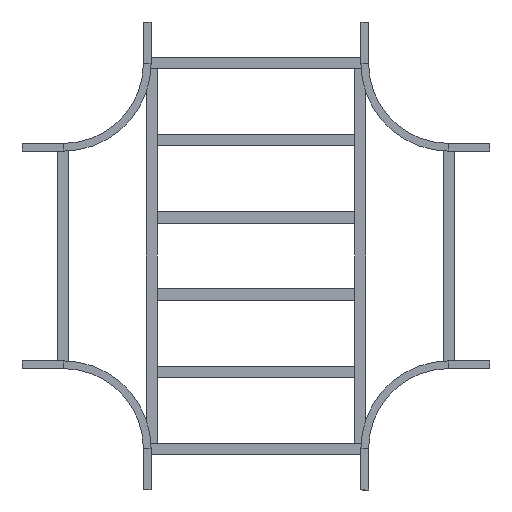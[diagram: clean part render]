
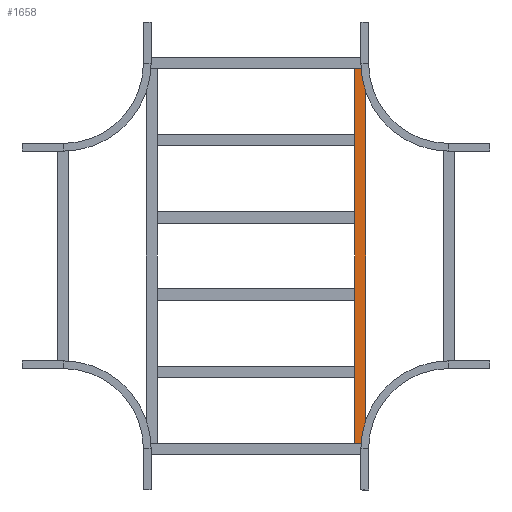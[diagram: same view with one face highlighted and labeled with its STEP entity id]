
A CAD part, front view. The second image highlights one B-rep face of the part: STEP entity #1658.
In plain terms, the highlighted planar face has unit normal (0, -1, 0).
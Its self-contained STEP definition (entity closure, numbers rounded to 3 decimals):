
#43 = CARTESIAN_POINT ( 'NONE',  ( 679.75, 0., 20.25 ) ) ;
#59 = CARTESIAN_POINT ( 'NONE',  ( 679.75, 0., 20.25 ) ) ;
#257 = EDGE_CURVE ( 'NONE', #1794, #2661, #788, .T. ) ;
#326 = FACE_OUTER_BOUND ( 'NONE', #582, .T. ) ;
#425 = CARTESIAN_POINT ( 'NONE',  ( 679.75, 0., -20.25 ) ) ;
#459 = LINE ( 'NONE', #1505, #1971 ) ;
#477 = EDGE_CURVE ( 'NONE', #1794, #1764, #2387, .T. ) ;
#511 = AXIS2_PLACEMENT_3D ( 'NONE', #43, #693, #1509 ) ;
#516 = ORIENTED_EDGE ( 'NONE', *, *, #1326, .F. ) ;
#582 = EDGE_LOOP ( 'NONE', ( #2548, #516, #769, #2320 ) ) ;
#673 = LINE ( 'NONE', #425, #1915 ) ;
#693 = DIRECTION ( 'NONE',  ( 0., 1., 0. ) ) ;
#706 = CARTESIAN_POINT ( 'NONE',  ( -679.75, 0., -20.25 ) ) ;
#709 = DIRECTION ( 'NONE',  ( -1., 0., 0. ) ) ;
#769 = ORIENTED_EDGE ( 'NONE', *, *, #257, .F. ) ;
#788 = LINE ( 'NONE', #1899, #1952 ) ;
#1053 = CARTESIAN_POINT ( 'NONE',  ( -679.75, 0., 20.25 ) ) ;
#1189 = PLANE ( 'NONE',  #511 ) ;
#1221 = VECTOR ( 'NONE', #709, 1000. ) ;
#1326 = EDGE_CURVE ( 'NONE', #2661, #2098, #673, .T. ) ;
#1333 = CARTESIAN_POINT ( 'NONE',  ( 679.75, 0., 20.25 ) ) ;
#1348 = DIRECTION ( 'NONE',  ( -1., 0., 0. ) ) ;
#1505 = CARTESIAN_POINT ( 'NONE',  ( -679.75, 0., 20.25 ) ) ;
#1509 = DIRECTION ( 'NONE',  ( 0., 0., 1. ) ) ;
#1658 = ADVANCED_FACE ( 'NONE', ( #326 ), #1189, .F. ) ;
#1662 = CARTESIAN_POINT ( 'NONE',  ( 679.75, 0., -20.25 ) ) ;
#1764 = VERTEX_POINT ( 'NONE', #1053 ) ;
#1794 = VERTEX_POINT ( 'NONE', #1333 ) ;
#1798 = EDGE_CURVE ( 'NONE', #1764, #2098, #459, .T. ) ;
#1899 = CARTESIAN_POINT ( 'NONE',  ( 679.75, 0., 20.25 ) ) ;
#1915 = VECTOR ( 'NONE', #1348, 1000. ) ;
#1952 = VECTOR ( 'NONE', #2557, 1000. ) ;
#1971 = VECTOR ( 'NONE', #1987, 1000. ) ;
#1987 = DIRECTION ( 'NONE',  ( 0., 0., -1. ) ) ;
#2098 = VERTEX_POINT ( 'NONE', #706 ) ;
#2320 = ORIENTED_EDGE ( 'NONE', *, *, #477, .T. ) ;
#2387 = LINE ( 'NONE', #59, #1221 ) ;
#2548 = ORIENTED_EDGE ( 'NONE', *, *, #1798, .T. ) ;
#2557 = DIRECTION ( 'NONE',  ( 0., 0., -1. ) ) ;
#2661 = VERTEX_POINT ( 'NONE', #1662 ) ;
